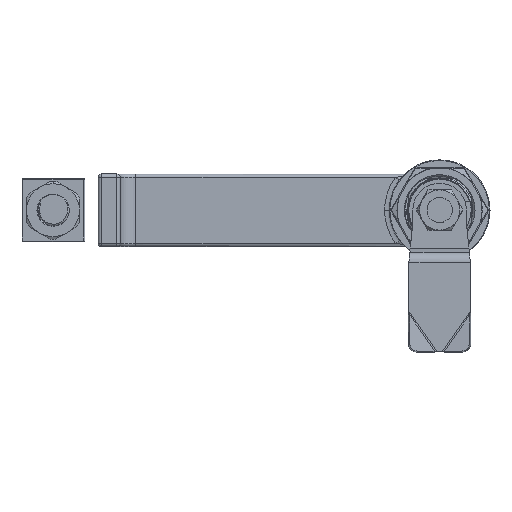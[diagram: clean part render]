
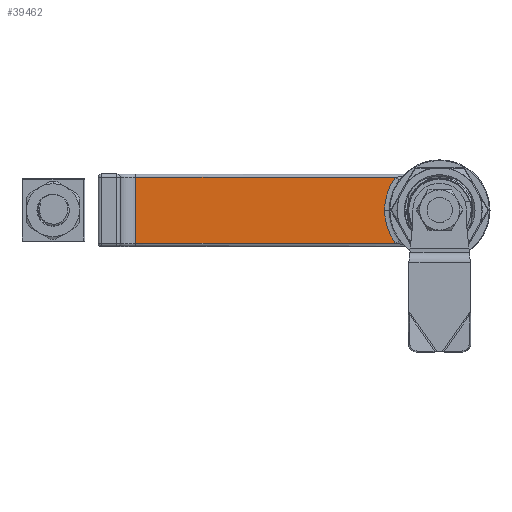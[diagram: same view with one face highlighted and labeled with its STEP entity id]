
A CAD part, top view. The second image highlights one B-rep face of the part: STEP entity #39462.
In plain terms, the highlighted planar face has unit normal (0, 0, 1) as drawn and (0, -0.276, 0.961) by its records, which use the part's own axes.
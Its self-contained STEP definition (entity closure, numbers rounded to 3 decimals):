
#335 = PLANE ( 'NONE',  #18878 ) ;
#361 = VERTEX_POINT ( 'NONE', #19370 ) ;
#3715 = EDGE_CURVE ( 'NONE', #361, #21689, #31888, .T. ) ;
#5222 = ORIENTED_EDGE ( 'NONE', *, *, #28997, .T. ) ;
#5463 = CARTESIAN_POINT ( 'NONE',  ( -110.661, 10.267, -46.565 ) ) ;
#7257 = CARTESIAN_POINT ( 'NONE',  ( -193.161, -9.919, -52.353 ) ) ;
#9436 = ORIENTED_EDGE ( 'NONE', *, *, #21051, .T. ) ;
#11722 = DIRECTION ( 'NONE',  ( 0., 0.276, -0.961 ) ) ;
#13419 = DIRECTION ( 'NONE',  ( 0., 0.276, -0.961 ) ) ;
#13913 = CIRCLE ( 'NONE', #30142, 17.5 ) ;
#15431 = CARTESIAN_POINT ( 'NONE',  ( -96.661, -9.919, -52.353 ) ) ;
#16809 = EDGE_CURVE ( 'NONE', #43586, #48255, #47315, .T. ) ;
#18738 = CARTESIAN_POINT ( 'NONE',  ( -193.161, 0.174, -49.459 ) ) ;
#18878 = AXIS2_PLACEMENT_3D ( 'NONE', #32311, #22143, #40368 ) ;
#19370 = CARTESIAN_POINT ( 'NONE',  ( -193.161, 10.267, -46.565 ) ) ;
#21051 = EDGE_CURVE ( 'NONE', #48255, #25507, #13913, .T. ) ;
#21689 = VERTEX_POINT ( 'NONE', #7257 ) ;
#22143 = DIRECTION ( 'NONE',  ( 0., 0.276, -0.961 ) ) ;
#23479 = VECTOR ( 'NONE', #37544, 1000. ) ;
#25507 = VERTEX_POINT ( 'NONE', #5463 ) ;
#28997 = EDGE_CURVE ( 'NONE', #25507, #361, #54051, .T. ) ;
#29820 = VECTOR ( 'NONE', #45617, 1000. ) ;
#30142 = AXIS2_PLACEMENT_3D ( 'NONE', #34703, #11722, #33325 ) ;
#31888 = LINE ( 'NONE', #18738, #29820 ) ;
#32311 = CARTESIAN_POINT ( 'NONE',  ( -96.661, 0.174, -49.459 ) ) ;
#33325 = DIRECTION ( 'NONE',  ( -1., 0., 0. ) ) ;
#34225 = VECTOR ( 'NONE', #49280, 1000. ) ;
#34703 = CARTESIAN_POINT ( 'NONE',  ( -96.661, 0.174, -49.459 ) ) ;
#35758 = ORIENTED_EDGE ( 'NONE', *, *, #47707, .T. ) ;
#37544 = DIRECTION ( 'NONE',  ( 1., 0., 0. ) ) ;
#39462 = ADVANCED_FACE ( 'NONE', ( #41260 ), #335, .F. ) ;
#40047 = CARTESIAN_POINT ( 'NONE',  ( -193.161, 10.267, -46.565 ) ) ;
#40368 = DIRECTION ( 'NONE',  ( -1., 0., 0. ) ) ;
#41260 = FACE_OUTER_BOUND ( 'NONE', #43416, .T. ) ;
#41344 = CARTESIAN_POINT ( 'NONE',  ( -114.161, 0.174, -49.459 ) ) ;
#43416 = EDGE_LOOP ( 'NONE', ( #35758, #47333, #9436, #5222, #50688 ) ) ;
#43586 = VERTEX_POINT ( 'NONE', #56777 ) ;
#45617 = DIRECTION ( 'NONE',  ( 0., -0.961, -0.276 ) ) ;
#46245 = DIRECTION ( 'NONE',  ( -1., 0., 0. ) ) ;
#47315 = CIRCLE ( 'NONE', #53068, 17.5 ) ;
#47333 = ORIENTED_EDGE ( 'NONE', *, *, #16809, .T. ) ;
#47707 = EDGE_CURVE ( 'NONE', #21689, #43586, #56322, .T. ) ;
#48255 = VERTEX_POINT ( 'NONE', #41344 ) ;
#49280 = DIRECTION ( 'NONE',  ( -1., 0., 0. ) ) ;
#49825 = CARTESIAN_POINT ( 'NONE',  ( -96.661, 0.174, -49.459 ) ) ;
#50688 = ORIENTED_EDGE ( 'NONE', *, *, #3715, .T. ) ;
#53068 = AXIS2_PLACEMENT_3D ( 'NONE', #49825, #13419, #46245 ) ;
#54051 = LINE ( 'NONE', #40047, #34225 ) ;
#56322 = LINE ( 'NONE', #15431, #23479 ) ;
#56777 = CARTESIAN_POINT ( 'NONE',  ( -110.661, -9.919, -52.353 ) ) ;
